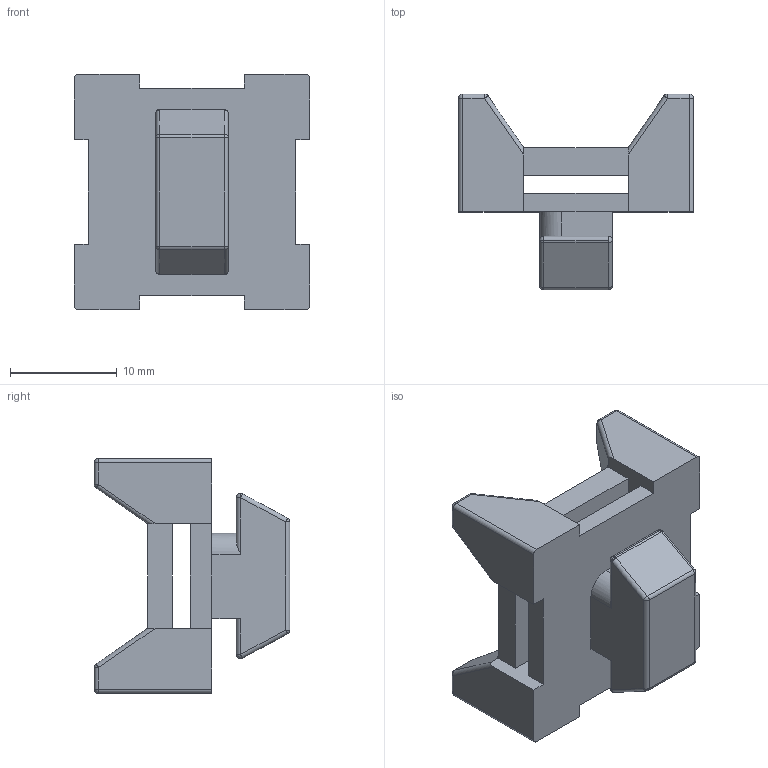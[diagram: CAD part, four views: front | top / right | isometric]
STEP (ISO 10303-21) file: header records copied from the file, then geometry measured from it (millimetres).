
FILE_DESCRIPTION (( 'STEP AP214' ), '1' );
FILE_NAME ('365.0404A.01.STEP', '2023-10-03T12:55:20', ( '' ), ( '' ), 'SwSTEP 2.0', 'SolidWorks 2022', '' );
FILE_SCHEMA (( 'AUTOMOTIVE_DESIGN' ));
Length unit declared in the file: millimetre
Products named in the file (1): 365.0404A.01
Bounding box: 22 x 18.3 x 22 mm (x, y, z)
Volume: 3055 mm3; surface area: 2611.4 mm2
Topology: 1 solids, 1 shells, 124 faces, 330 edges, 183 vertices
Faces by surface type: cylinder 53, plane 49, sphere 22
Entity records: 3665 total; most frequent: CARTESIAN_POINT 680, DIRECTION 625, ORIENTED_EDGE 620, EDGE_CURVE 310, VECTOR 209, LINE 209, AXIS2_PLACEMENT_3D 208, VERTEX_POINT 183
